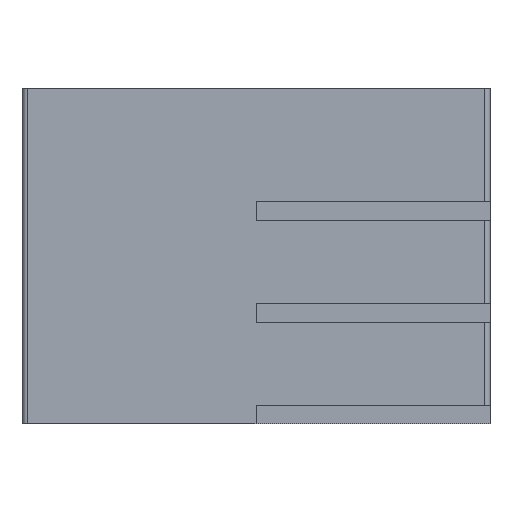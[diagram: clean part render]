
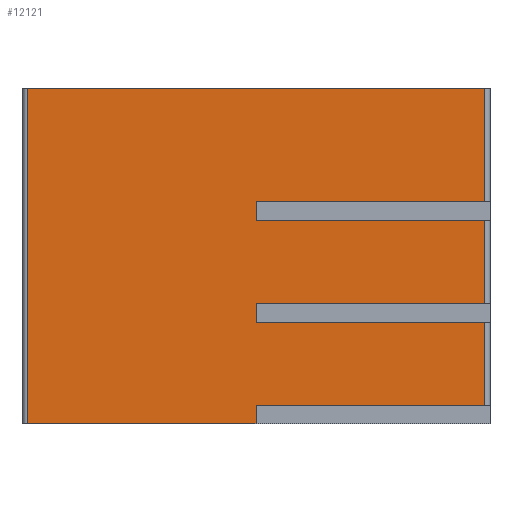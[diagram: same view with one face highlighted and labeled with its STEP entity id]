
A CAD part, top view. The second image highlights one B-rep face of the part: STEP entity #12121.
In plain terms, the highlighted planar face has unit normal (0, 0, 1).
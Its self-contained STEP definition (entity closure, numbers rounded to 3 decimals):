
#69=DIRECTION('',(0.,-1.,0.));
#70=VECTOR('',#69,16.5);
#71=CARTESIAN_POINT('',(0.25,1.5,0.));
#72=LINE('',#71,#70);
#77=DIRECTION('',(0.,1.,0.));
#78=VECTOR('',#77,4.1);
#79=CARTESIAN_POINT('',(22.75,-14.1,0.));
#80=LINE('',#79,#78);
#81=DIRECTION('',(-1.,0.,0.));
#82=VECTOR('',#81,11.25);
#83=CARTESIAN_POINT('',(11.5,-15.,0.));
#84=LINE('',#83,#82);
#85=DIRECTION('',(0.,1.,0.));
#86=VECTOR('',#85,4.1);
#87=CARTESIAN_POINT('',(22.75,-9.1,0.));
#88=LINE('',#87,#86);
#93=DIRECTION('',(0.,1.,0.));
#94=VECTOR('',#93,0.9);
#95=CARTESIAN_POINT('',(11.5,-10.,0.));
#96=LINE('',#95,#94);
#106=DIRECTION('',(-1.,0.,0.));
#107=VECTOR('',#106,11.25);
#108=CARTESIAN_POINT('',(22.75,-10.,0.));
#109=LINE('',#108,#107);
#131=DIRECTION('',(1.,0.,0.));
#132=VECTOR('',#131,11.25);
#133=CARTESIAN_POINT('',(11.5,-9.1,0.));
#134=LINE('',#133,#132);
#144=DIRECTION('',(-1.,0.,0.));
#145=VECTOR('',#144,11.25);
#146=CARTESIAN_POINT('',(22.75,-5.,0.));
#147=LINE('',#146,#145);
#160=DIRECTION('',(0.,1.,0.));
#161=VECTOR('',#160,0.9);
#162=CARTESIAN_POINT('',(11.5,-5.,0.));
#163=LINE('',#162,#161);
#177=DIRECTION('',(1.,0.,0.));
#178=VECTOR('',#177,11.25);
#179=CARTESIAN_POINT('',(11.5,-4.1,0.));
#180=LINE('',#179,#178);
#185=DIRECTION('',(0.,1.,0.));
#186=VECTOR('',#185,5.6);
#187=CARTESIAN_POINT('',(22.75,-4.1,0.));
#188=LINE('',#187,#186);
#7367=DIRECTION('',(0.,1.,0.));
#7368=VECTOR('',#7367,0.9);
#7369=CARTESIAN_POINT('',(11.5,-15.,0.));
#7370=LINE('',#7369,#7368);
#7392=DIRECTION('',(1.,0.,0.));
#7393=VECTOR('',#7392,11.25);
#7394=CARTESIAN_POINT('',(11.5,-14.1,0.));
#7395=LINE('',#7394,#7393);
#8234=DIRECTION('',(1.,0.,0.));
#8235=VECTOR('',#8234,22.5);
#8236=CARTESIAN_POINT('',(0.25,1.5,0.));
#8237=LINE('',#8236,#8235);
#9321=CARTESIAN_POINT('',(0.25,1.5,0.));
#9323=VERTEX_POINT('',#9321);
#9324=CARTESIAN_POINT('',(22.75,1.5,0.));
#9326=VERTEX_POINT('',#9324);
#9507=CARTESIAN_POINT('',(11.5,-4.1,0.));
#9509=VERTEX_POINT('',#9507);
#9813=CARTESIAN_POINT('',(22.75,-4.1,0.));
#9815=VERTEX_POINT('',#9813);
#10110=CARTESIAN_POINT('',(11.5,-9.1,0.));
#10112=VERTEX_POINT('',#10110);
#10293=CARTESIAN_POINT('',(22.75,-5.,0.));
#10295=VERTEX_POINT('',#10293);
#10299=CARTESIAN_POINT('',(22.75,-9.1,0.));
#10300=VERTEX_POINT('',#10299);
#10359=CARTESIAN_POINT('',(11.5,-5.,0.));
#10360=VERTEX_POINT('',#10359);
#10391=CARTESIAN_POINT('',(11.5,-15.,0.));
#10393=VERTEX_POINT('',#10391);
#10583=CARTESIAN_POINT('',(11.5,-14.1,0.));
#10584=VERTEX_POINT('',#10583);
#10889=CARTESIAN_POINT('',(22.75,-10.,0.));
#10891=VERTEX_POINT('',#10889);
#10895=CARTESIAN_POINT('',(22.75,-14.1,0.));
#10896=VERTEX_POINT('',#10895);
#10913=CARTESIAN_POINT('',(0.25,-15.,0.));
#10915=VERTEX_POINT('',#10913);
#10979=CARTESIAN_POINT('',(11.5,-10.,0.));
#10980=VERTEX_POINT('',#10979);
#12087=CARTESIAN_POINT('',(0.,0.,0.));
#12088=DIRECTION('',(0.,0.,1.));
#12089=DIRECTION('',(1.,0.,0.));
#12090=AXIS2_PLACEMENT_3D('',#12087,#12088,#12089);
#12091=PLANE('',#12090);
#12093=ORIENTED_EDGE('',*,*,#12092,.F.);
#12095=ORIENTED_EDGE('',*,*,#12094,.F.);
#12097=ORIENTED_EDGE('',*,*,#12096,.F.);
#12099=ORIENTED_EDGE('',*,*,#12098,.F.);
#12101=ORIENTED_EDGE('',*,*,#12100,.F.);
#12103=ORIENTED_EDGE('',*,*,#12102,.T.);
#12104=ORIENTED_EDGE('',*,*,#12077,.F.);
#12106=ORIENTED_EDGE('',*,*,#12105,.T.);
#12108=ORIENTED_EDGE('',*,*,#12107,.F.);
#12110=ORIENTED_EDGE('',*,*,#12109,.F.);
#12112=ORIENTED_EDGE('',*,*,#12111,.F.);
#12114=ORIENTED_EDGE('',*,*,#12113,.F.);
#12116=ORIENTED_EDGE('',*,*,#12115,.F.);
#12118=ORIENTED_EDGE('',*,*,#12117,.F.);
#12119=EDGE_LOOP('',(#12093,#12095,#12097,#12099,#12101,#12103,#12104,#12106,
#12108,#12110,#12112,#12114,#12116,#12118));
#12120=FACE_OUTER_BOUND('',#12119,.F.);
#12121=ADVANCED_FACE('',(#12120),#12091,.T.);
#12077=EDGE_CURVE('',#9323,#10915,#72,.T.);
#12092=EDGE_CURVE('',#10980,#10112,#96,.T.);
#12094=EDGE_CURVE('',#10891,#10980,#109,.T.);
#12096=EDGE_CURVE('',#10896,#10891,#80,.T.);
#12098=EDGE_CURVE('',#10584,#10896,#7395,.T.);
#12100=EDGE_CURVE('',#10393,#10584,#7370,.T.);
#12102=EDGE_CURVE('',#10393,#10915,#84,.T.);
#12105=EDGE_CURVE('',#9323,#9326,#8237,.T.);
#12107=EDGE_CURVE('',#9815,#9326,#188,.T.);
#12109=EDGE_CURVE('',#9509,#9815,#180,.T.);
#12111=EDGE_CURVE('',#10360,#9509,#163,.T.);
#12113=EDGE_CURVE('',#10295,#10360,#147,.T.);
#12115=EDGE_CURVE('',#10300,#10295,#88,.T.);
#12117=EDGE_CURVE('',#10112,#10300,#134,.T.);
